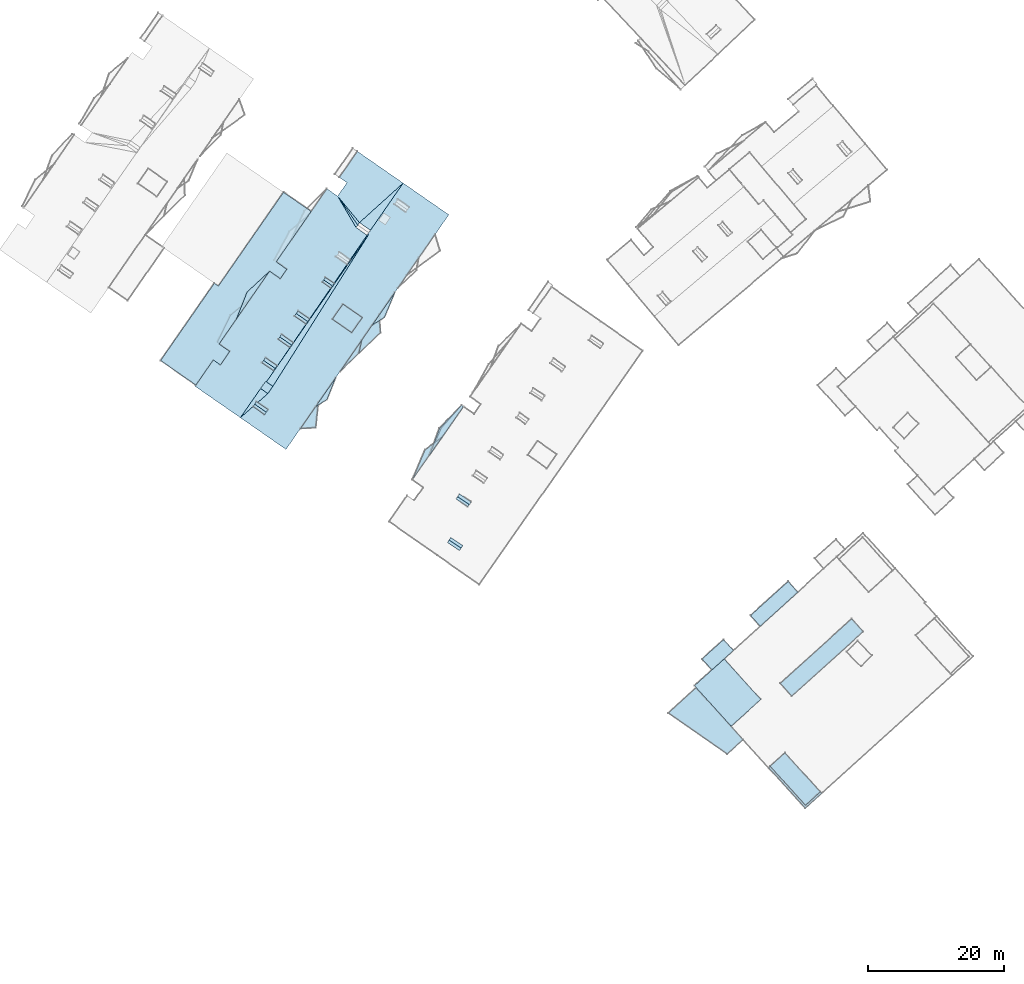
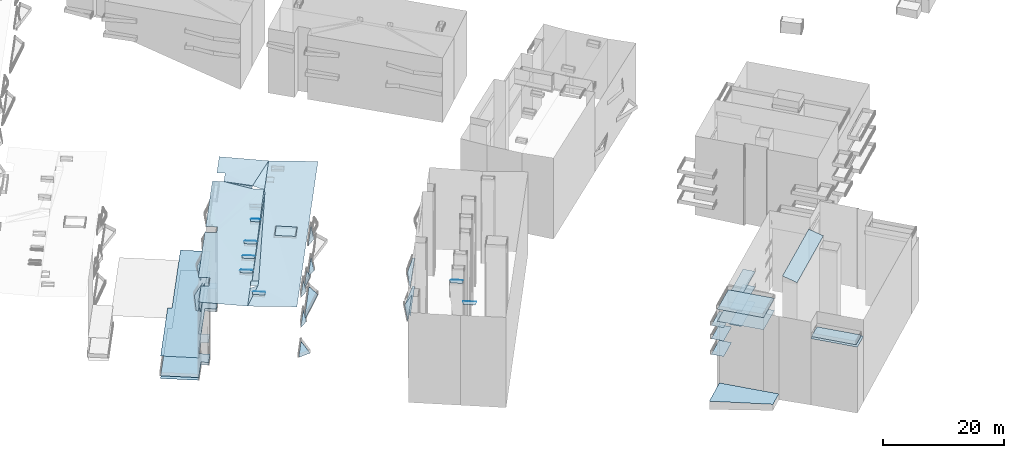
# Not in any storey, part 125 of 136: 90 roofs.
"""IFC4 building model written with IfcOpenShell, lengths in metres."""

from ifc_helpers import new_model, entity, si_unit, converted_unit, frame, origin, place, context, subcontext, project, spatial, face_set, surface_model, element, save


model = new_model("IFC4")

# Units and contexts
model_context = context("Model", 3, precision=1e-05, world=origin())
body_context = subcontext(model_context, "Body", "Model", "MODEL_VIEW")
ifc_project = project(units=[converted_unit("PLANEANGLEUNIT", "DEGREE", entity("IfcRatioMeasure", 0.0174532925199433), si_unit("PLANEANGLEUNIT", "RADIAN"), dimensions=[0, 0, 0, 0, 0, 0, 0]), si_unit("AREAUNIT", "SQUARE_METRE"), si_unit("LENGTHUNIT", "METRE")], contexts=[model_context])

# Site, building
site_placement = place(None, origin())
site = spatial("IfcSite", under=ifc_project, at=site_placement, Name="_site")
building_1_placement = place(site_placement, origin())
building_1 = spatial("IfcBuilding", under=site, at=building_1_placement, Name="_building")

# Roofs
for number, where, name in (
    (1, (0.0, 0.0, 0.0), "Roof"),
    (2, (0.0, 0.0, 0.0), "Roof"),
):
    element("IfcRoof", number, at=place(building_1_placement, frame(where)), inside=building_1, Name=name, PredefinedType="NOTDEFINED", context=body_context, shape_type="SurfaceModel", body=[
        surface_model("IfcFaceBasedSurfaceModel", [(7.08, 16.45, 54.66), (7.33, 16.82, 54.44), (5.56, 18.0, 54.44), (5.31, 17.63, 54.66)], [face_set([[[0, 1, 2, 3]]])]),
    ])
for number, where, name in (
    (3, (0.0, 0.0, 0.0), "Roof"),
    (4, (0.0, 0.0, 0.0), "Roof"),
):
    element("IfcRoof", number, at=place(building_1_placement, frame(where)), inside=building_1, Name=name, PredefinedType="NOTDEFINED", context=body_context, shape_type="SurfaceModel", body=[
        surface_model("IfcFaceBasedSurfaceModel", [(8.3, 22.86, 54.68), (8.58, 23.271, 54.45), (6.84, 24.43, 54.45), (6.57, 24.03, 54.68)], [face_set([[[0, 1, 2, 3]]])]),
    ])
for number, where, name in (
    (5, (0.0, 0.0, 0.0), "Roof"),
    (6, (0.0, 0.0, 0.0), "Roof"),
):
    element("IfcRoof", number, at=place(building_1_placement, frame(where)), inside=building_1, Name=name, PredefinedType="NOTDEFINED", context=body_context, shape_type="SurfaceModel", body=[
        surface_model("IfcFaceBasedSurfaceModel", [(8.3, 22.86, 54.68), (6.57, 24.03, 54.68), (6.34, 23.69, 54.41), (8.08, 22.53, 54.41)], [face_set([[[0, 1, 2, 3]]])]),
    ])
for number, where, name in (
    (7, (0.0, 0.0, 0.0), "Roof"),
    (8, (0.0, 0.0, 0.0), "Roof"),
):
    element("IfcRoof", number, at=place(building_1_placement, frame(where)), inside=building_1, Name=name, PredefinedType="NOTDEFINED", context=body_context, shape_type="SurfaceModel", body=[
        surface_model("IfcFaceBasedSurfaceModel", [(7.08, 16.45, 54.66), (5.31, 17.63, 54.66), (5.07, 17.271, 54.43), (6.84, 16.08, 54.43)], [face_set([[[0, 1, 2, 3]]])]),
    ])
for number, where, name in (
    (9, (0.0, 0.0, 0.0), "Roof"),
    (10, (0.0, 0.0, 0.0), "Roof"),
):
    element("IfcRoof", number, at=place(building_1_placement, frame(where)), inside=building_1, Name=name, PredefinedType="NOTDEFINED", context=body_context, shape_type="SurfaceModel", body=[
        surface_model("IfcFaceBasedSurfaceModel", [(-0.12, 26.5, 47.18), (4.31, 32.83, 47.18), (1.77, 30.93, 47.18)], [face_set([[[0, 1, 2]]])]),
    ])
for number, where, name in (
    (11, (0.0, 0.0, 0.0), "Roof"),
    (12, (0.0, 0.0, 0.0), "Roof"),
):
    element("IfcRoof", number, at=place(building_1_placement, frame(where)), inside=building_1, Name=name, PredefinedType="NOTDEFINED", context=body_context, shape_type="SurfaceModel", body=[
        surface_model("IfcFaceBasedSurfaceModel", [(3.89, 34.12, 45.09), (2.41, 30.12, 45.09), (7.44, 37.311, 45.09), (7.15, 37.51, 45.09)], [face_set([[[0, 1, 2, 3]]])]),
    ])
for number, where, name in (
    (13, (0.0, 0.0, 0.0), "Roof"),
    (14, (0.0, 0.0, 0.0), "Roof"),
):
    element("IfcRoof", number, at=place(building_1_placement, frame(where)), inside=building_1, Name=name, PredefinedType="NOTDEFINED", context=body_context, shape_type="SurfaceModel", body=[
        surface_model("IfcFaceBasedSurfaceModel", [(4.15, 34.14, 50.84), (2.41, 30.12, 50.84), (7.44, 37.311, 50.84), (7.15, 37.51, 50.84)], [face_set([[[0, 1, 2, 3]]])]),
    ])

# Building
building_2_placement = place(site_placement, origin())
building_2 = spatial("IfcBuilding", under=site, at=building_2_placement, Name="_building")

# Roofs
roof_1_placement = place(building_2_placement, origin())
element("IfcRoof", 15, at=roof_1_placement, inside=building_2, Name="Roof", PredefinedType="NOTDEFINED", context=body_context, shape_type="SurfaceModel", body=[
    surface_model("IfcFaceBasedSurfaceModel", [(-29.47, 44.19, 37.98), (-28.41, 43.46, 37.98), (-27.04, 45.45, 37.98), (-28.62, 46.55, 37.98), (-21.17, 57.29, 37.98), (-19.58, 56.19, 37.98), (-18.62, 57.58, 37.98), (-20.19, 58.67, 37.98), (-15.03, 66.11, 37.98), (-19.11, 68.94, 37.98), (-28.72, 55.11, 37.98), (-29.32, 55.521, 37.98), (-37.25, 44.11, 37.98), (-32.04, 40.49, 37.98)], [face_set([[[0, 1, 2, 3, 4, 5, 6, 7, 8, 9, 10, 11, 12, 13]]])]),
])
roof_2_placement = place(building_2_placement, origin())
element("IfcRoof", 16, at=roof_2_placement, inside=building_2, Name="Roof", PredefinedType="NOTDEFINED", context=body_context, shape_type="SurfaceModel", body=[
    surface_model("IfcFaceBasedSurfaceModel", [(-6.29, 63.33, 53.59), (-6.54, 62.97, 53.59), (-6.679, 62.771, 53.59), (-6.56, 62.69, 53.59), (-21.631, 40.969, 53.59), (-20.68, 40.311, 54.17), (-21.42, 39.24, 54.17), (-22.491, 39.981, 53.59), (-25.48, 35.68, 53.59), (-18.75, 31.0, 53.94), (5.27, 65.62, 53.94), (-1.46, 70.29, 53.59)], [face_set([[[0, 1, 2, 3, 4, 5, 6, 7, 8, 9, 10, 11]]])]),
])
for number, where, name in (
    (17, (0.0, 0.0, 0.0), "Roof"),
    (18, (0.0, 0.0, 0.0), "Roof"),
):
    element("IfcRoof", number, at=place(building_2_placement, frame(where)), inside=building_2, Name=name, PredefinedType="NOTDEFINED", context=body_context, shape_type="SurfaceModel", body=[
        surface_model("IfcFaceBasedSurfaceModel", [(-1.46, 70.29, 53.59), (-8.21, 74.97, 53.94), (-10.87, 71.13, 53.94), (-9.75, 70.351, 53.94), (-11.13, 68.37, 53.94), (-12.71, 69.46, 53.94), (-15.03, 66.11, 53.94), (-20.19, 58.67, 53.94), (-18.62, 57.58, 53.94), (-19.58, 56.19, 53.94), (-21.17, 57.29, 53.94), (-28.62, 46.55, 53.94), (-27.04, 45.45, 53.94), (-28.41, 43.46, 53.94), (-29.47, 44.19, 53.94), (-32.04, 40.49, 53.94), (-32.16, 40.311, 53.94), (-25.48, 35.68, 53.59), (-22.491, 39.981, 53.59), (-21.75, 41.05, 53.59), (-21.631, 40.969, 53.59), (-6.56, 62.69, 53.59), (-6.679, 62.771, 53.59), (-6.79, 62.61, 54.35), (-8.41, 63.74, 54.35), (-8.16, 64.101, 54.52), (-7.91, 64.46, 54.35), (-6.29, 63.33, 53.59)], [face_set([[[0, 1, 2, 3, 4, 5, 6, 7, 8, 9, 10, 11, 12, 13, 14, 15, 16, 17, 18, 19, 20, 21, 22, 23, 24, 25, 26, 27]]])]),
    ])
for number, where, name in (
    (19, (0.0, 0.0, 0.0), "Roof"),
    (20, (0.0, 0.0, 0.0), "Roof"),
):
    element("IfcRoof", number, at=place(building_2_placement, frame(where)), inside=building_2, Name=name, PredefinedType="NOTDEFINED", context=body_context, shape_type="SurfaceModel", body=[
        surface_model("IfcFaceBasedSurfaceModel", [(-21.67, 36.5, 54.52), (-21.4, 36.88, 54.32), (-23.1, 38.05, 54.32), (-23.36, 37.68, 54.52)], [face_set([[[0, 1, 2, 3]]])]),
    ])
for number, where, name in (
    (21, (0.0, 0.0, 0.0), "Roof"),
    (22, (0.0, 0.0, 0.0), "Roof"),
):
    element("IfcRoof", number, at=place(building_2_placement, frame(where)), inside=building_2, Name=name, PredefinedType="NOTDEFINED", context=body_context, shape_type="SurfaceModel", body=[
        surface_model("IfcFaceBasedSurfaceModel", [(-17.94, 46.4, 54.52), (-17.69, 46.771, 54.35), (-19.39, 47.96, 54.35), (-19.65, 47.59, 54.52)], [face_set([[[0, 1, 2, 3]]])]),
    ])
for number, where, name in (
    (23, (0.0, 0.0, 0.0), "Roof"),
    (24, (0.0, 0.0, 0.0), "Roof"),
):
    element("IfcRoof", number, at=place(building_2_placement, frame(where)), inside=building_2, Name=name, PredefinedType="NOTDEFINED", context=body_context, shape_type="SurfaceModel", body=[
        surface_model("IfcFaceBasedSurfaceModel", [(-15.54, 49.87, 54.52), (-15.27, 50.25, 54.35), (-16.97, 51.43, 54.35), (-17.24, 51.05, 54.52)], [face_set([[[0, 1, 2, 3]]])]),
    ])
for number, where, name in (
    (25, (0.0, 0.0, 0.0), "Roof"),
    (26, (0.0, 0.0, 0.0), "Roof"),
):
    element("IfcRoof", number, at=place(building_2_placement, frame(where)), inside=building_2, Name=name, PredefinedType="NOTDEFINED", context=body_context, shape_type="SurfaceModel", body=[
        surface_model("IfcFaceBasedSurfaceModel", [(-20.34, 42.95, 54.52), (-20.06, 43.351, 54.35), (-21.77, 44.54, 54.35), (-22.05, 44.13, 54.52)], [face_set([[[0, 1, 2, 3]]])]),
    ])
for number, where, name in (
    (27, (0.0, 0.0, 0.0), "Roof"),
    (28, (0.0, 0.0, 0.0), "Roof"),
):
    element("IfcRoof", number, at=place(building_2_placement, frame(where)), inside=building_2, Name=name, PredefinedType="NOTDEFINED", context=body_context, shape_type="SurfaceModel", body=[
        surface_model("IfcFaceBasedSurfaceModel", [(-11.9, 55.12, 54.52), (-11.64, 55.49, 54.35), (-12.92, 56.38, 54.35), (-13.18, 56.01, 54.52)], [face_set([[[0, 1, 2, 3]]])]),
    ])
for number, where, name in (
    (29, (0.0, 0.0, 0.0), "Roof"),
    (30, (0.0, 0.0, 0.0), "Roof"),
):
    element("IfcRoof", number, at=place(building_2_placement, frame(where)), inside=building_2, Name=name, PredefinedType="NOTDEFINED", context=body_context, shape_type="SurfaceModel", body=[
        surface_model("IfcFaceBasedSurfaceModel", [(-2.68, 54.16, 44.39), (-6.03, 49.33, 44.39), (-4.22, 50.48, 44.39)], [face_set([[[0, 1, 2]]])]),
    ])
for number, where, name in (
    (31, (0.0, 0.0, 0.0), "Roof"),
    (32, (0.0, 0.0, 0.0), "Roof"),
):
    element("IfcRoof", number, at=place(building_2_placement, frame(where)), inside=building_2, Name=name, PredefinedType="NOTDEFINED", context=body_context, shape_type="SurfaceModel", body=[
        surface_model("IfcFaceBasedSurfaceModel", [(-13.96, 37.91, 50.44), (-14.38, 37.3, 50.44), (-12.71, 38.351, 50.44), (-11.4, 41.59, 50.44)], [face_set([[[0, 1, 2, 3]]])]),
    ])
roof_3_placement = place(building_2_placement, origin())
element("IfcRoof", 33, at=roof_3_placement, inside=building_2, Name="Roof", PredefinedType="NOTDEFINED", context=body_context, shape_type="SurfaceModel", body=[
    surface_model("IfcFaceBasedSurfaceModel", [(-21.17, 57.29, 43.65), (-24.48, 54.22, 43.65), (-26.07, 50.23, 43.65)], [face_set([[[0, 1, 2]]])]),
])
roof_4_placement = place(building_2_placement, origin())
element("IfcRoof", 34, at=roof_4_placement, inside=building_2, Name="Roof", PredefinedType="NOTDEFINED", context=body_context, shape_type="SurfaceModel", body=[
    surface_model("IfcFaceBasedSurfaceModel", [(-2.68, 54.16, 50.7), (-6.03, 49.33, 50.7), (-4.22, 50.48, 50.7)], [face_set([[[0, 1, 2]]])]),
])
for number, where, name in (
    (35, (0.0, 0.0, 0.0), "Roof"),
    (36, (0.0, 0.0, 0.0), "Roof"),
):
    element("IfcRoof", number, at=place(building_2_placement, frame(where)), inside=building_2, Name=name, PredefinedType="NOTDEFINED", context=body_context, shape_type="SurfaceModel", body=[
        surface_model("IfcFaceBasedSurfaceModel", [(-13.96, 37.91, 44.38), (-14.38, 37.3, 44.38), (-12.71, 38.351, 44.38), (-11.4, 41.59, 44.38)], [face_set([[[0, 1, 2, 3]]])]),
    ])
for number, where, name in (
    (37, (0.0, 0.0, 0.0), "Roof"),
    (38, (0.0, 0.0, 0.0), "Roof"),
):
    element("IfcRoof", number, at=place(building_2_placement, frame(where)), inside=building_2, Name=name, PredefinedType="NOTDEFINED", context=body_context, shape_type="SurfaceModel", body=[
        surface_model("IfcFaceBasedSurfaceModel", [(-21.17, 57.29, 49.95), (-24.48, 54.22, 49.95), (-26.07, 50.23, 49.95)], [face_set([[[0, 1, 2]]])]),
    ])
for number, where, name in (
    (39, (0.0, 0.0, 0.0), "Roof"),
    (40, (0.0, 0.0, 0.0), "Roof"),
):
    element("IfcRoof", number, at=place(building_2_placement, frame(where)), inside=building_2, Name=name, PredefinedType="NOTDEFINED", context=body_context, shape_type="SurfaceModel", body=[
        surface_model("IfcFaceBasedSurfaceModel", [(-21.67, 36.5, 54.52), (-23.36, 37.68, 54.52), (-23.61, 37.311, 54.32), (-21.92, 36.13, 54.32)], [face_set([[[0, 1, 2, 3]]])]),
    ])
for number, where, name in (
    (41, (0.0, 0.0, 0.0), "Roof"),
    (42, (0.0, 0.0, 0.0), "Roof"),
):
    element("IfcRoof", number, at=place(building_2_placement, frame(where)), inside=building_2, Name=name, PredefinedType="NOTDEFINED", context=body_context, shape_type="SurfaceModel", body=[
        surface_model("IfcFaceBasedSurfaceModel", [(-20.34, 42.95, 54.52), (-22.05, 44.13, 54.52), (-22.3, 43.78, 54.35), (-20.59, 42.601, 54.35)], [face_set([[[0, 1, 2, 3]]])]),
    ])
for number, where, name in (
    (43, (0.0, 0.0, 0.0), "Roof"),
    (44, (0.0, 0.0, 0.0), "Roof"),
):
    element("IfcRoof", number, at=place(building_2_placement, frame(where)), inside=building_2, Name=name, PredefinedType="NOTDEFINED", context=body_context, shape_type="SurfaceModel", body=[
        surface_model("IfcFaceBasedSurfaceModel", [(-18.2, 46.04, 54.35), (-17.94, 46.4, 54.52), (-19.65, 47.59, 54.52), (-19.9, 47.22, 54.35)], [face_set([[[0, 1, 2, 3]]])]),
    ])
for number, where, name in (
    (45, (0.0, 0.0, 0.0), "Roof"),
    (46, (0.0, 0.0, 0.0), "Roof"),
):
    element("IfcRoof", number, at=place(building_2_placement, frame(where)), inside=building_2, Name=name, PredefinedType="NOTDEFINED", context=body_context, shape_type="SurfaceModel", body=[
        surface_model("IfcFaceBasedSurfaceModel", [(-15.8, 49.5, 54.35), (-15.54, 49.87, 54.52), (-17.24, 51.05, 54.52), (-17.5, 50.68, 54.35)], [face_set([[[0, 1, 2, 3]]])]),
    ])
for number, where, name in (
    (47, (0.0, 0.0, 0.0), "Roof"),
    (48, (0.0, 0.0, 0.0), "Roof"),
):
    element("IfcRoof", number, at=place(building_2_placement, frame(where)), inside=building_2, Name=name, PredefinedType="NOTDEFINED", context=body_context, shape_type="SurfaceModel", body=[
        surface_model("IfcFaceBasedSurfaceModel", [(-23.99, 53.23, 47.1), (-26.94, 50.78, 47.1), (-28.85, 46.86, 47.1), (-28.62, 46.55, 47.1)], [face_set([[[0, 1, 2, 3]]])]),
    ])
for number, where, name in (
    (49, (0.0, 0.0, 0.0), "Roof"),
    (50, (0.0, 0.0, 0.0), "Roof"),
):
    element("IfcRoof", number, at=place(building_2_placement, frame(where)), inside=building_2, Name=name, PredefinedType="NOTDEFINED", context=body_context, shape_type="SurfaceModel", body=[
        surface_model("IfcFaceBasedSurfaceModel", [(-12.13, 54.79, 54.35), (-11.9, 55.12, 54.52), (-13.18, 56.01, 54.52), (-13.41, 55.68, 54.35)], [face_set([[[0, 1, 2, 3]]])]),
    ])
for number, where, name in (
    (51, (0.0, 0.0, 0.0), "Roof"),
    (52, (0.0, 0.0, 0.0), "Roof"),
):
    element("IfcRoof", number, at=place(building_2_placement, frame(where)), inside=building_2, Name=name, PredefinedType="NOTDEFINED", context=body_context, shape_type="SurfaceModel", body=[
        surface_model("IfcFaceBasedSurfaceModel", [(-11.9, 50.2, 54.34), (-9.04, 48.21, 54.34), (-7.48, 50.45, 54.34), (-10.35, 52.44, 54.34)], [face_set([[[0, 1, 2, 3]]])]),
    ])
for number, where, name in (
    (53, (0.0, 0.0, 0.0), "Roof"),
    (54, (0.0, 0.0, 0.0), "Roof"),
):
    element("IfcRoof", number, at=place(building_2_placement, frame(where)), inside=building_2, Name=name, PredefinedType="NOTDEFINED", context=body_context, shape_type="SurfaceModel", body=[
        surface_model("IfcFaceBasedSurfaceModel", [(-13.96, 37.91, 41.1), (-16.61, 34.08, 41.1), (-14.35, 34.19, 41.1)], [face_set([[[0, 1, 2]]])]),
    ])
for number, where, name in (
    (55, (0.0, 0.0, 0.0), "Roof"),
    (56, (0.0, 0.0, 0.0), "Roof"),
):
    element("IfcRoof", number, at=place(building_2_placement, frame(where)), inside=building_2, Name=name, PredefinedType="NOTDEFINED", context=body_context, shape_type="SurfaceModel", body=[
        surface_model("IfcFaceBasedSurfaceModel", [(-7.57, 47.11, 47.62), (-10.77, 42.49, 47.62), (-8.0, 45.16, 47.62)], [face_set([[[0, 1, 2]]])]),
    ])
for number, where, name in (
    (57, (0.0, 0.0, 0.0), "Roof"),
    (58, (0.0, 0.0, 0.0), "Roof"),
):
    element("IfcRoof", number, at=place(building_2_placement, frame(where)), inside=building_2, Name=name, PredefinedType="NOTDEFINED", context=body_context, shape_type="SurfaceModel", body=[
        surface_model("IfcFaceBasedSurfaceModel", [(-37.25, 44.11, 38.52), (-32.04, 40.49, 38.52), (-29.47, 44.19, 38.52), (-28.41, 43.46, 38.52), (-27.04, 45.45, 38.52), (-28.62, 46.55, 38.52), (-21.17, 57.29, 38.52), (-19.58, 56.19, 38.52), (-18.62, 57.58, 38.52), (-20.19, 58.67, 38.52), (-15.03, 66.11, 38.52), (-19.11, 68.94, 38.52), (-28.72, 55.11, 38.52), (-29.32, 55.521, 38.52)], [face_set([[[0, 1, 2, 3, 4, 5, 6, 7, 8, 9, 10, 11, 12, 13]]])]),
    ])
roof_5_placement = place(building_2_placement, origin())
element("IfcRoof", 59, at=roof_5_placement, inside=building_2, Name="Roof", PredefinedType="NOTDEFINED", context=body_context, shape_type="SurfaceModel", body=[
    surface_model("IfcFaceBasedSurfaceModel", [(-2.68, 54.16, 50.7), (-6.03, 49.33, 50.7), (-4.22, 50.48, 50.7)], [face_set([[[0, 1, 2]]])]),
])
for number, where, name in (
    (60, (0.0, 0.0, 0.0), "Roof"),
    (61, (0.0, 0.0, 0.0), "Roof"),
):
    element("IfcRoof", number, at=place(building_2_placement, frame(where)), inside=building_2, Name=name, PredefinedType="NOTDEFINED", context=body_context, shape_type="SurfaceModel", body=[
        surface_model("IfcFaceBasedSurfaceModel", [(-7.57, 47.11, 41.14), (-10.77, 42.49, 41.14), (-4.8, 48.24, 41.14), (-4.96, 50.88, 41.14)], [face_set([[[0, 1, 2, 3]]])]),
    ])
roof_6_placement = place(building_2_placement, origin())
element("IfcRoof", 62, at=roof_6_placement, inside=building_2, Name="Roof", PredefinedType="NOTDEFINED", context=body_context, shape_type="SurfaceModel", body=[
    surface_model("IfcFaceBasedSurfaceModel", [(-37.25, 44.11, 42.52), (-32.04, 40.49, 42.52), (-29.47, 44.19, 42.52), (-28.41, 43.46, 42.52), (-27.04, 45.45, 42.52), (-28.62, 46.55, 42.52), (-21.17, 57.29, 42.52), (-19.58, 56.19, 42.52), (-18.62, 57.58, 42.52), (-20.19, 58.67, 42.52), (-15.03, 66.11, 42.52), (-19.11, 68.94, 42.52), (-28.72, 55.11, 42.52), (-29.32, 55.521, 42.52)], [face_set([[[0, 1, 2, 3, 4, 5, 6, 7, 8, 9, 10, 11, 12, 13]]])]),
])
roof_7_placement = place(building_2_placement, origin())
element("IfcRoof", 63, at=roof_7_placement, inside=building_2, Name="Roof", PredefinedType="NOTDEFINED", context=body_context, shape_type="SurfaceModel", body=[
    surface_model("IfcFaceBasedSurfaceModel", [(-21.17, 57.29, 43.65), (-24.48, 54.22, 43.65), (-26.07, 50.23, 43.65)], [face_set([[[0, 1, 2]]])]),
])
for number, where, name in (
    (64, (0.0, 0.0, 0.0), "Roof"),
    (65, (0.0, 0.0, 0.0), "Roof"),
):
    element("IfcRoof", number, at=place(building_2_placement, frame(where)), inside=building_2, Name=name, PredefinedType="NOTDEFINED", context=body_context, shape_type="SurfaceModel", body=[
        surface_model("IfcFaceBasedSurfaceModel", [(-21.75, 41.05, 54.17), (-22.491, 39.981, 54.17), (-21.42, 39.24, 54.17), (-20.68, 40.311, 54.17), (-21.631, 40.969, 54.17)], [face_set([[[0, 1, 2, 3, 4]]])]),
    ])
roof_8_placement = place(building_2_placement, origin())
element("IfcRoof", 66, at=roof_8_placement, inside=building_2, Name="Roof", PredefinedType="NOTDEFINED", context=body_context, shape_type="SurfaceModel", body=[
    surface_model("IfcFaceBasedSurfaceModel", [(-6.29, 63.33, 53.59), (-6.54, 62.97, 53.59), (-6.679, 62.771, 53.59), (-6.56, 62.69, 53.59), (-21.631, 40.969, 53.59), (-20.68, 40.311, 54.17), (-21.42, 39.24, 54.17), (-22.491, 39.981, 53.59), (-25.48, 35.68, 53.59), (-18.75, 31.0, 53.94), (5.27, 65.62, 53.94), (-1.46, 70.29, 53.59)], [face_set([[[0, 1, 2, 3, 4, 5, 6, 7, 8, 9, 10, 11]]])]),
])

# Building
building_3_placement = place(site_placement, origin())
building_3 = spatial("IfcBuilding", under=site, at=building_3_placement, Name="_building")

# Roofs
for number, where, name in (
    (67, (0.0, 0.0, 0.0), "Roof"),
    (68, (0.0, 0.0, 0.0), "Roof"),
):
    element("IfcRoof", number, at=place(building_3_placement, frame(where)), inside=building_3, Name=name, PredefinedType="NOTDEFINED", context=body_context, shape_type="SurfaceModel", body=[
        surface_model("IfcFaceBasedSurfaceModel", [(51.22, 4.92, 41.23), (56.77, 9.94, 41.23), (55.34, 11.521, 41.23), (49.79, 6.5, 41.23)], [face_set([[[0, 1, 2, 3]]])]),
    ])
for number, where, name in (
    (69, (0.0, 0.0, 0.0), "Roof"),
    (70, (0.0, 0.0, 0.0), "Roof"),
):
    element("IfcRoof", number, at=place(building_3_placement, frame(where)), inside=building_3, Name=name, PredefinedType="NOTDEFINED", context=body_context, shape_type="SurfaceModel", body=[
        surface_model("IfcFaceBasedSurfaceModel", [(48.71, -11.81, 38.68), (46.93, -9.84, 38.68), (41.77, -4.14, 38.68), (37.68, -7.89, 38.68), (46.35, -13.939, 38.68)], [face_set([[[0, 1, 2, 3, 4]]])]),
    ])
for number, where, name in (
    (71, (0.0, 0.0, 0.0), "Roof"),
    (72, (0.0, 0.0, 0.0), "Roof"),
):
    element("IfcRoof", number, at=place(building_3_placement, frame(where)), inside=building_3, Name=name, PredefinedType="NOTDEFINED", context=body_context, shape_type="SurfaceModel", body=[
        surface_model("IfcFaceBasedSurfaceModel", [(44.1, -1.53, 41.6), (47.27, 1.34, 41.6), (45.81, 2.95, 41.6), (42.64, 0.08, 41.6)], [face_set([[[0, 1, 2, 3]]])]),
    ])
for number, where, name in (
    (73, (0.0, 0.0, 0.0), "Roof"),
    (74, (0.0, 0.0, 0.0), "Roof"),
):
    element("IfcRoof", number, at=place(building_3_placement, frame(where)), inside=building_3, Name=name, PredefinedType="NOTDEFINED", context=body_context, shape_type="SurfaceModel", body=[
        surface_model("IfcFaceBasedSurfaceModel", [(51.22, 4.92, 44.35), (56.77, 9.94, 44.35), (55.34, 11.521, 44.35), (49.79, 6.5, 44.35)], [face_set([[[0, 1, 2, 3]]])]),
    ])
for number, where, name in (
    (75, (0.0, 0.0, 0.0), "Roof"),
    (76, (0.0, 0.0, 0.0), "Roof"),
):
    element("IfcRoof", number, at=place(building_3_placement, frame(where)), inside=building_3, Name=name, PredefinedType="NOTDEFINED", context=body_context, shape_type="SurfaceModel", body=[
        surface_model("IfcFaceBasedSurfaceModel", [(44.1, -1.53, 44.76), (47.27, 1.34, 44.76), (45.81, 2.95, 44.76), (42.64, 0.08, 44.76)], [face_set([[[0, 1, 2, 3]]])]),
    ])
for number, where, name in (
    (77, (0.0, 0.0, 0.0), "Roof"),
    (78, (0.0, 0.0, 0.0), "Roof"),
):
    element("IfcRoof", number, at=place(building_3_placement, frame(where)), inside=building_3, Name=name, PredefinedType="NOTDEFINED", context=body_context, shape_type="SurfaceModel", body=[
        surface_model("IfcFaceBasedSurfaceModel", [(54.19, -3.52, 55.57), (55.9, -5.41, 54.77), (66.44, 4.13, 54.77), (64.73, 6.021, 55.57)], [face_set([[[0, 1, 2, 3]]])]),
    ])
for number, where, name in (
    (79, (0.0, 0.0, 0.0), "Roof"),
    (80, (0.0, 0.0, 0.0), "Roof"),
):
    element("IfcRoof", number, at=place(building_3_placement, frame(where)), inside=building_3, Name=name, PredefinedType="NOTDEFINED", context=body_context, shape_type="SurfaceModel", body=[
        surface_model("IfcFaceBasedSurfaceModel", [(44.1, -1.53, 47.44), (47.27, 1.34, 47.44), (45.81, 2.95, 47.44), (42.64, 0.08, 47.44)], [face_set([[[0, 1, 2, 3]]])]),
    ])
for number, where, name in (
    (81, (0.0, 0.0, 0.0), "Roof"),
    (82, (0.0, 0.0, 0.0), "Roof"),
):
    element("IfcRoof", number, at=place(building_3_placement, frame(where)), inside=building_3, Name=name, PredefinedType="NOTDEFINED", context=body_context, shape_type="SurfaceModel", body=[
        surface_model("IfcFaceBasedSurfaceModel", [(41.77, -4.14, 51.06), (46.93, -9.84, 51.06), (51.31, -5.88, 51.06), (45.9, 0.09, 51.06), (41.52, -3.86, 51.06)], [face_set([[[0, 1, 2, 3, 4]]])]),
    ])
for number, where, name in (
    (83, (0.0, 0.0, 0.0), "Roof"),
    (84, (0.0, 0.0, 0.0), "Roof"),
):
    element("IfcRoof", number, at=place(building_3_placement, frame(where)), inside=building_3, Name=name, PredefinedType="NOTDEFINED", context=body_context, shape_type="SurfaceModel", body=[
        surface_model("IfcFaceBasedSurfaceModel", [(51.22, 4.92, 47.44), (56.77, 9.94, 47.44), (55.34, 11.521, 47.44), (49.79, 6.5, 47.44)], [face_set([[[0, 1, 2, 3]]])]),
    ])
for number, where, name in (
    (85, (0.0, 0.0, 0.0), "Roof"),
    (86, (0.0, 0.0, 0.0), "Roof"),
):
    element("IfcRoof", number, at=place(building_3_placement, frame(where)), inside=building_3, Name=name, PredefinedType="NOTDEFINED", context=body_context, shape_type="SurfaceModel", body=[
        surface_model("IfcFaceBasedSurfaceModel", [(60.31, -19.74, 51.06), (54.87, -13.74, 51.06), (52.45, -15.93, 51.06), (57.89, -21.939, 51.06)], [face_set([[[0, 1, 2, 3]]])]),
    ])
for number, where, name in (
    (87, (0.0, 0.0, 0.0), "Roof"),
    (88, (0.0, 0.0, 0.0), "Roof"),
):
    element("IfcRoof", number, at=place(building_3_placement, frame(where)), inside=building_3, Name=name, PredefinedType="NOTDEFINED", context=body_context, shape_type="SurfaceModel", body=[
        surface_model("IfcFaceBasedSurfaceModel", [(46.93, -9.84, 53.51), (51.31, -5.88, 53.51), (45.9, 0.09, 53.51), (41.52, -3.86, 53.51), (41.77, -4.14, 53.51)], [face_set([[[0, 1, 2, 3, 4]]])]),
    ])
for number, where, name in (
    (89, (0.0, 0.0, 0.0), "Roof"),
    (90, (0.0, 0.0, 0.0), "Roof"),
):
    element("IfcRoof", number, at=place(building_3_placement, frame(where)), inside=building_3, Name=name, PredefinedType="NOTDEFINED", context=body_context, shape_type="SurfaceModel", body=[
        surface_model("IfcFaceBasedSurfaceModel", [(60.1, -19.51, 51.26), (54.87, -13.74, 51.26), (52.68, -15.72, 51.26), (57.9, -21.5, 51.26)], [face_set([[[0, 1, 2, 3]]])]),
    ])

save(model, "model.ifc")
